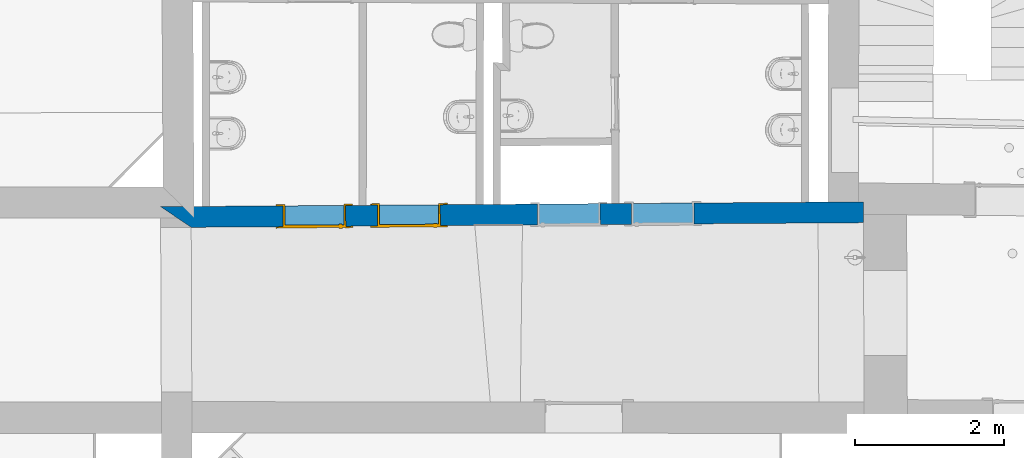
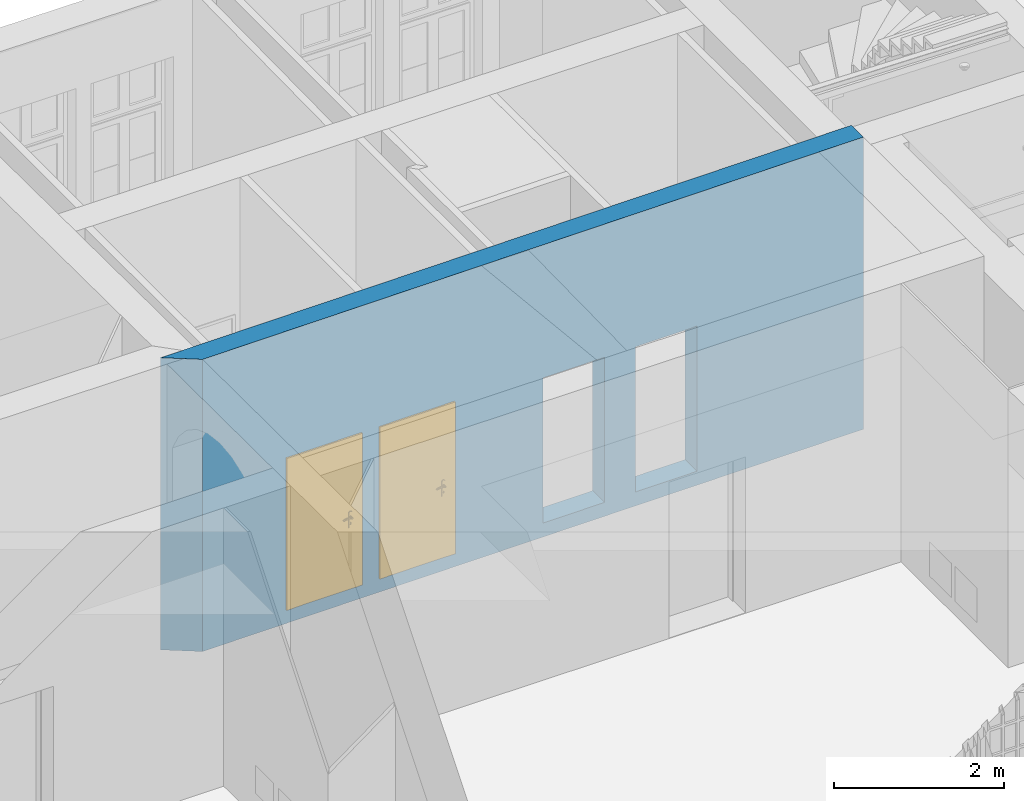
# One storey, part 29 of 90: 2 doors, 1 wall, 4 openings.
"""IFC2X3 building model written with IfcOpenShell, lengths in metres."""

import ifcopenshell
import ifcopenshell.guid

model = None  # the IFC model being written
_history = None  # IfcOwnerHistory: only IFC2X3 demands one
_inside = {}  # id of a spatial element -> (the spatial element, [elements in it])
_under = {}  # id of a project, library or spatial element -> (it, [spatial elements below it])
_declared = {}  # id of a project -> (the project, [libraries it declares])
_typed = {}  # id of a type object -> (the type object, [elements of that type])
_made_of = {}  # id of a material, layer set ... -> (it, [elements and type objects made of it])


def new_model(schema):
    """Start an empty IFC model of exactly this schema.

    Asked for "IFC4X3", IfcOpenShell would pick the latest addendum, in which some entities
    have other attributes; the version numbers below select the first issue.
    IFC2X3 requires an IfcOwnerHistory on every rooted entity: one is made here for all.
    """
    global model, _history
    if schema == "IFC4X3":
        model = ifcopenshell.file(schema_version=(4, 3, 0, 0))
    else:
        model = ifcopenshell.file(schema=schema)
    _inside.clear()
    _under.clear()
    _declared.clear()
    _typed.clear()
    _made_of.clear()
    _history = None
    if model.schema == "IFC2X3":
        org = make("IfcOrganization", Name="unknown")
        user = make(
            "IfcPersonAndOrganization",
            ThePerson=make("IfcPerson", FamilyName="unknown"),
            TheOrganization=org,
        )
        app = make(
            "IfcApplication",
            ApplicationDeveloper=org,
            Version="unknown",
            ApplicationFullName="unknown",
            ApplicationIdentifier="unknown",
        )
        _history = make(
            "IfcOwnerHistory",
            OwningUser=user,
            OwningApplication=app,
            ChangeAction="ADDED",
            CreationDate=0,
        )
    return model


def make(cls, **values):
    """One entity of the class cls with the attributes given. An attribute that is None is left unset."""
    return model.create_entity(
        cls, **{name: value for name, value in values.items() if value is not None}
    )


def entity(cls, *values):
    """Any entity or typed value of the class cls, its attributes in the order of the schema. None: left unset."""
    e = model.create_entity(cls)
    for i, value in enumerate(values):
        if value is not None:
            e[i] = value
    return e


def rooted(cls, **values):
    """An entity with a GlobalId (a new one), such as an element, a storey or a relation."""
    return make(cls, GlobalId=ifcopenshell.guid.new(), OwnerHistory=_history, **values)


def si_unit(unit_type, name, prefix=None):
    """IfcSIUnit, for example si_unit("LENGTHUNIT", "METRE", prefix="MILLI")."""
    return make("IfcSIUnit", UnitType=unit_type, Prefix=prefix, Name=name)


def converted_unit(unit_type, name, factor, base, dimensions=None, offset=None):
    """IfcConversionBasedUnit, such as the inch: factor (a typed value) times the base unit."""
    return make(
        "IfcConversionBasedUnit"
        if offset is None
        else "IfcConversionBasedUnitWithOffset",
        ConversionOffset=offset,
        Dimensions=None
        if dimensions is None
        else entity("IfcDimensionalExponents", *dimensions),
        UnitType=unit_type,
        Name=name,
        ConversionFactor=make(
            "IfcMeasureWithUnit", ValueComponent=factor, UnitComponent=base
        ),
    )


def derived_unit(unit_type, elements):
    """IfcDerivedUnit: a product of units, each with its exponent."""
    return make(
        "IfcDerivedUnit",
        Elements=[
            make("IfcDerivedUnitElement", Unit=unit, Exponent=power)
            for unit, power in elements
        ],
        UnitType=unit_type,
    )


def money_unit(currency):
    """IfcMonetaryUnit."""
    return make("IfcMonetaryUnit", Currency=currency)


def assignment(units):
    """IfcUnitAssignment: the units of a project."""
    return None if units is None else make("IfcUnitAssignment", Units=units)


def point(xyz):
    """IfcCartesianPoint."""
    return None if xyz is None else make("IfcCartesianPoint", Coordinates=xyz)


def direction(xyz):
    """IfcDirection."""
    return None if xyz is None else make("IfcDirection", DirectionRatios=xyz)


def frame(location, z_axis=None, x_axis=None):
    """IfcAxis2Placement3D, a coordinate frame: its origin and axes. An axis left out is left unset."""
    return make(
        "IfcAxis2Placement3D",
        Location=point(location),
        Axis=direction(z_axis),
        RefDirection=direction(x_axis),
    )


def frame_2d(location, x_axis=None):
    """IfcAxis2Placement2D, a coordinate frame in the plane: its origin and x axis."""
    return make(
        "IfcAxis2Placement2D", Location=point(location), RefDirection=direction(x_axis)
    )


def origin_with_axes():
    """The frame at (0, 0, 0) with the z axis (0, 0, 1) and the x axis (1, 0, 0) written out."""
    return frame((0.0, 0.0, 0.0), z_axis=(0.0, 0.0, 1.0), x_axis=(1.0, 0.0, 0.0))


def origin_2d_with_axis():
    """The frame at (0, 0) in the plane with the x axis (1, 0) written out."""
    return frame_2d((0.0, 0.0), x_axis=(1.0, 0.0))


def place(relative_to, where):
    """IfcLocalPlacement: puts the frame where relative to a parent placement (None: the world)."""
    return make(
        "IfcLocalPlacement", PlacementRelTo=relative_to, RelativePlacement=where
    )


def context(
    kind, dimensions, precision=None, world=None, true_north=None, identifier=None
):
    """IfcGeometricRepresentationContext, for example the 3D "Model" context."""
    return make(
        "IfcGeometricRepresentationContext",
        ContextIdentifier=identifier,
        ContextType=kind,
        CoordinateSpaceDimension=dimensions,
        Precision=precision,
        WorldCoordinateSystem=world,
        TrueNorth=true_north,
    )


def subcontext(parent, identifier, kind, view, scale=None):
    """IfcGeometricRepresentationSubContext, for example "Body" below "Model"."""
    return make(
        "IfcGeometricRepresentationSubContext",
        ContextIdentifier=identifier,
        ContextType=kind,
        ParentContext=parent,
        TargetScale=scale,
        TargetView=view,
    )


def project(units=None, contexts=None):
    """IfcProject with its units and contexts."""
    return rooted(
        "IfcProject",
        Name="project",
        RepresentationContexts=contexts,
        UnitsInContext=assignment(units),
    )


def spatial(cls, under=None, at=None, **own):
    """A site, building, storey or space (cls), placed at a placement, below another one or the project."""
    s = rooted(cls, ObjectPlacement=at, **own)
    if under is not None:
        _under.setdefault(under.id(), (under, []))[1].append(s)
    return s


def polyline(points):
    """IfcPolyline through the points."""
    return make("IfcPolyline", Points=[point(p) for p in points])


def profile(cls, at=None, kind="AREA", **sizes):
    """A parametric profile (cls). Its sizes go by their IFC names, for example OverallWidth=200.0."""
    return make(cls, ProfileType=kind, Position=at, **sizes)


def rectangle(**sizes):
    """IfcRectangleProfileDef."""
    return profile("IfcRectangleProfileDef", **sizes)


def outline(outer, holes=None, kind="AREA"):
    """IfcArbitraryClosedProfileDef: a profile drawn as a closed curve; with holes, ...WithVoids."""
    if holes is None:
        return make("IfcArbitraryClosedProfileDef", ProfileType=kind, OuterCurve=outer)
    return make(
        "IfcArbitraryProfileDefWithVoids",
        ProfileType=kind,
        OuterCurve=outer,
        InnerCurves=holes,
    )


def extrude(swept, where, along, depth):
    """IfcExtrudedAreaSolid: the profile swept, set in the frame where, extruded along a direction by depth."""
    return make(
        "IfcExtrudedAreaSolid",
        SweptArea=swept,
        Position=where,
        ExtrudedDirection=direction(along),
        Depth=depth,
    )


def faces_of(points, faces, orient=None, outer=None):
    """IfcFace entities. A face is a list of loops; a loop is a list of indices into points, from 0.

    orient and outer hold one flag for each loop. By default every Orientation is true, the
    first loop of a face is its IfcFaceOuterBound and the others are IfcFaceBound.
    """
    made = []
    for i, loops in enumerate(faces):
        bounds = []
        for j, loop in enumerate(loops):
            is_outer = j == 0 if outer is None else outer[i][j]
            bounds.append(
                make(
                    "IfcFaceOuterBound" if is_outer else "IfcFaceBound",
                    Bound=make("IfcPolyLoop", Polygon=[points[k] for k in loop]),
                    Orientation=True if orient is None else orient[i][j],
                )
            )
        made.append(make("IfcFace", Bounds=bounds))
    return made


def faceted_brep(points, faces, orient=None, outer=None, voids=None):
    """IfcFacetedBrep: a solid bounded by flat faces; with voids (closed shells), ...WithVoids."""
    shared = [point(p) for p in points]
    hull = make("IfcClosedShell", CfsFaces=faces_of(shared, faces, orient, outer))
    if voids is None:
        return make("IfcFacetedBrep", Outer=hull)
    return make(
        "IfcFacetedBrepWithVoids",
        Outer=hull,
        Voids=[
            make(cls, CfsFaces=faces_of(shared, fs, o, b)) for cls, fs, o, b in voids
        ],
    )


def shape(context_of_items, identifier, shape_type, items):
    """IfcShapeRepresentation: the items that make up one representation, for example the "Body"."""
    return make(
        "IfcShapeRepresentation",
        ContextOfItems=context_of_items,
        RepresentationIdentifier=identifier,
        RepresentationType=shape_type,
        Items=items,
    )


def source(mapping_origin, context_of_items, identifier, shape_type, items):
    """IfcRepresentationMap: a shape defined once, which mapped items show again and again."""
    return make(
        "IfcRepresentationMap",
        MappingOrigin=mapping_origin,
        MappedRepresentation=shape(context_of_items, identifier, shape_type, items),
    )


def transform(
    local_origin,
    x_axis=None,
    y_axis=None,
    z_axis=None,
    scale=None,
    scale2=None,
    scale3=None,
    uniform=True,
):
    """IfcCartesianTransformationOperator3D, or its non-uniform kind. x_axis, y_axis, z_axis: its Axis1, 2, 3."""
    if uniform:
        return make(
            "IfcCartesianTransformationOperator3D",
            Axis1=direction(x_axis),
            Axis2=direction(y_axis),
            LocalOrigin=point(local_origin),
            Scale=scale,
            Axis3=direction(z_axis),
        )
    return make(
        "IfcCartesianTransformationOperator3DnonUniform",
        Axis1=direction(x_axis),
        Axis2=direction(y_axis),
        LocalOrigin=point(local_origin),
        Scale=scale,
        Axis3=direction(z_axis),
        Scale2=scale2,
        Scale3=scale3,
    )


def mapped(mapping_source, mapping_target):
    """IfcMappedItem: shows the shape of a source again, moved by a transform."""
    return make(
        "IfcMappedItem", MappingSource=mapping_source, MappingTarget=mapping_target
    )


def material(Name=None, Category=None):
    """IfcMaterial."""
    return make("IfcMaterial", Name=Name, Category=Category)


def layer(
    of_material, thickness, ventilated=None, Name=None, Category=None, Priority=None
):
    """IfcMaterialLayer: one layer of a wall or slab, of a material (None: an air gap)."""
    return make(
        "IfcMaterialLayer",
        Material=of_material,
        LayerThickness=thickness,
        IsVentilated=ventilated,
        Name=Name,
        Category=Category,
        Priority=Priority,
    )


def layer_set(layers, Name=None):
    """IfcMaterialLayerSet."""
    return make("IfcMaterialLayerSet", MaterialLayers=layers, LayerSetName=Name)


def layer_usage(for_layer_set, set_direction, sense, offset, extent=None):
    """IfcMaterialLayerSetUsage: how a layer set lies in its element."""
    return make(
        "IfcMaterialLayerSetUsage",
        ForLayerSet=for_layer_set,
        LayerSetDirection=set_direction,
        DirectionSense=sense,
        OffsetFromReferenceLine=offset,
        ReferenceExtent=extent,
    )


def made_of(thing, what):
    """Note that an element or type object is made of a material, layer set ...; save() writes the relation."""
    if what is not None:
        _made_of.setdefault(what.id(), (what, []))[1].append(thing)
    return thing


def type_object(cls, material=None, **own):
    """A type object (cls), such as IfcWallType, which elements share."""
    return made_of(rooted(cls, **own), material)


def element(
    cls,
    number,
    at=None,
    inside=None,
    cuts=None,
    type_object=None,
    material=None,
    context=None,
    identifier="Body",
    shape_type=None,
    held_by="IfcProductDefinitionShape",
    body=None,
    shapes=None,
    **own,
):
    """One element of the class cls, such as IfcWall. Its Tag is "e" and its number.

    at: its placement. inside: the storey or other place that contains it. cuts: it is an
    opening in that element (IfcRelVoidsElement). A single representation is given by context,
    identifier, shape_type and body (its items); several are given by shapes. held_by: the class
    of the entity that holds the representations. save() writes the other relations.
    """
    e = rooted(cls, Tag="e%d" % number, ObjectPlacement=at, **own)
    if body is not None:
        shapes = [shape(context, identifier, shape_type, body)]
    if shapes is not None:
        e.Representation = make(held_by, Representations=shapes)
    if inside is not None:
        _inside.setdefault(inside.id(), (inside, []))[1].append(e)
    if cuts is not None:
        rooted(
            "IfcRelVoidsElement", RelatingBuildingElement=cuts, RelatedOpeningElement=e
        )
    if type_object is not None:
        _typed.setdefault(type_object.id(), (type_object, []))[1].append(e)
    return made_of(e, material)


def fill(opening, filler):
    """IfcRelFillsElement: the door or window that sits in an opening."""
    return rooted(
        "IfcRelFillsElement",
        RelatingOpeningElement=opening,
        RelatedBuildingElement=filler,
    )


def aggregate(whole, parts):
    """IfcRelAggregates: a whole, such as a stair, and the parts it consists of."""
    return rooted("IfcRelAggregates", RelatingObject=whole, RelatedObjects=parts)


def save(model, path):
    """Write the relations noted so far, then the file.

    IfcRelAggregates (storeys below a building ...), IfcRelContainedInSpatialStructure (elements
    in a storey), IfcRelDefinesByType, IfcRelAssociatesMaterial and IfcRelDeclares: one each for
    every whole, place, type object, material and project.
    """
    for whole, parts in _under.values():
        aggregate(whole, parts)
    for where, things in _inside.values():
        rooted(
            "IfcRelContainedInSpatialStructure",
            RelatedElements=things,
            RelatingStructure=where,
        )
    for kind, things in _typed.values():
        rooted("IfcRelDefinesByType", RelatedObjects=things, RelatingType=kind)
    for what, things in _made_of.values():
        rooted("IfcRelAssociatesMaterial", RelatedObjects=things, RelatingMaterial=what)
    for by, libraries in _declared.values():
        rooted("IfcRelDeclares", RelatingContext=by, RelatedDefinitions=libraries)
    model.write(path)


model = new_model("IFC2X3")

# Units and contexts
model_context = context("Model", 3, precision=1e-05, world=origin_with_axes(), true_north=direction((0.0, 1.0)))
body_context = subcontext(model_context, "Body", "Model", "MODEL_VIEW")
ifc_project = project(units=[si_unit("LENGTHUNIT", "METRE"), si_unit("AREAUNIT", "SQUARE_METRE"), si_unit("VOLUMEUNIT", "CUBIC_METRE"), converted_unit("PLANEANGLEUNIT", "DEGREE", entity("IfcPlaneAngleMeasure", 0.0174532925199), si_unit("PLANEANGLEUNIT", "RADIAN"), dimensions=[0, 0, 0, 0, 0, 0, 0]), money_unit("EUR"), converted_unit("TIMEUNIT", "Year", entity("IfcTimeMeasure", 31556926.0), si_unit("TIMEUNIT", "SECOND"), dimensions=[0, 0, 1, 0, 0, 0, 0]), si_unit("MASSUNIT", "GRAM", prefix="KILO"), si_unit("THERMODYNAMICTEMPERATUREUNIT", "DEGREE_CELSIUS"), si_unit("LUMINOUSINTENSITYUNIT", "LUMEN"), si_unit("ENERGYUNIT", "JOULE", prefix="MEGA"), derived_unit("THERMALCONDUCTANCEUNIT", [(si_unit("POWERUNIT", "WATT"), 1), (si_unit("LENGTHUNIT", "METRE"), -1), (si_unit("THERMODYNAMICTEMPERATUREUNIT", "KELVIN"), -1)]), derived_unit("SPECIFICHEATCAPACITYUNIT", [(si_unit("ENERGYUNIT", "JOULE"), 1), (si_unit("MASSUNIT", "GRAM", prefix="KILO"), -1), (si_unit("THERMODYNAMICTEMPERATUREUNIT", "KELVIN"), -1)]), derived_unit("MASSDENSITYUNIT", [(si_unit("MASSUNIT", "GRAM", prefix="KILO"), 1), (si_unit("VOLUMEUNIT", "CUBIC_METRE"), -1)])], contexts=[model_context])

# Site, building, storey
site_placement = place(None, origin_with_axes())
site = spatial("IfcSite", under=ifc_project, at=site_placement, Name="Gelände", CompositionType="ELEMENT")
building_placement = place(site_placement, origin_with_axes())
building = spatial("IfcBuilding", under=site, at=building_placement, Name="Gebäude", CompositionType="ELEMENT")
storey_placement = place(building_placement, frame((0.0, 0.0, 3.7), z_axis=(0.0, 0.0, 1.0), x_axis=(1.0, 0.0, 0.0)))
storey = spatial("IfcBuildingStorey", under=building, at=storey_placement, Name="1.OBERGESCHOSS", CompositionType="ELEMENT", Elevation=3.7)

# Wall, openings, doors
ifc_material = material(Name="05_ALLGEMEIN - TRAGENDE BAUTEILE")
ifc_layer = layer(ifc_material, 0.28, ventilated="UNKNOWN")
ifc_layer_set = layer_set([ifc_layer], Name="05_ALLGEMEIN - TRAGENDE BAUTEILE 0.28")
ifc_layer_usage = layer_usage(ifc_layer_set, "AXIS2", "NEGATIVE", 0.28)
wall_type = type_object("IfcWallType", Name="05_ALLGEMEIN - TRAGENDE BAUTEILE 280", PredefinedType="ELEMENTEDWALL")
wall_placement = place(storey_placement, frame((12.5279882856, 19.1535270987, -0.1), z_axis=(0.0, 0.0, 1.0), x_axis=(0.9999762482, 0.00689224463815, 0.0)))
wall = element("IfcWallStandardCase", 1, at=wall_placement, inside=storey, type_object=wall_type, material=ifc_layer_usage, Name="Wand-038", ObjectType="ELEMENTEDWALL", context=body_context, shape_type="SweptSolid", body=[
    extrude(outline(polyline([(0.410001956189, 0.0), (9.43148530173, 0.0), (9.432443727, 0.28), (0.000864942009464, 0.28), (0.410001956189, 0.0)])), origin_with_axes(), (0.0, 0.0, 1.0), 4.2),
])
opening_1_placement = place(wall_placement, frame((2.06437671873, 0.0, 0.2), z_axis=(0.0, 0.0, 1.0), x_axis=(1.0, 0.0, 0.0)))
opening_1 = element("IfcOpeningElement", 2, at=opening_1_placement, cuts=wall, Name="Tür-022", context=body_context, shape_type="SweptSolid", body=[
    extrude(rectangle(XDim=0.840428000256, YDim=2.086604, at=origin_2d_with_axis()), frame((0.0, 0.28, 1.043302), z_axis=(0.0, -1.0, 0.0), x_axis=(-1.0, 0.0, 0.0)), (0.0, 0.0, 1.0), 0.84),
])
opening_2_placement = place(wall_placement, frame((3.33315273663, 0.0, 0.2), z_axis=(0.0, 0.0, 1.0), x_axis=(1.0, 0.0, 0.0)))
opening_2 = element("IfcOpeningElement", 3, at=opening_2_placement, cuts=wall, Name="Tür-023", context=body_context, shape_type="SweptSolid", body=[
    extrude(rectangle(XDim=0.840428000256, YDim=2.086604, at=origin_2d_with_axis()), frame((0.0, 0.28, 1.043302), z_axis=(0.0, -1.0, 0.0), x_axis=(-1.0, 0.0, 0.0)), (0.0, 0.0, 1.0), 0.84),
])
opening_3_placement = place(wall_placement, frame((5.47973669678, 0.0, 0.2), z_axis=(0.0, 0.0, 1.0), x_axis=(1.0, 0.0, 0.0)))
element("IfcOpeningElement", 4, at=opening_3_placement, cuts=wall, Name="Tür-024", context=body_context, shape_type="SweptSolid", body=[
    extrude(rectangle(XDim=0.840428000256, YDim=2.086604, at=origin_2d_with_axis()), frame((0.0, 0.28, 1.043302), z_axis=(0.0, 1.0, 0.0), x_axis=(1.0, 0.0, 0.0)), (0.0, 0.0, -1.0), 0.84),
])
opening_4_placement = place(wall_placement, frame((6.74065422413, 0.0, 0.2), z_axis=(0.0, 0.0, 1.0), x_axis=(1.0, 0.0, 0.0)))
element("IfcOpeningElement", 5, at=opening_4_placement, cuts=wall, Name="Tür-025", context=body_context, shape_type="SweptSolid", body=[
    extrude(rectangle(XDim=0.840428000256, YDim=2.086604, at=origin_2d_with_axis()), frame((0.0, 0.28, 1.043302), z_axis=(0.0, 1.0, 0.0), x_axis=(1.0, 0.0, 0.0)), (0.0, 0.0, -1.0), 0.84),
])
door_style = type_object("IfcDoorStyle", Name="Blockrahmentür 1-Fl 25", ConstructionType="NOTDEFINED", OperationType="SINGLE_SWING_RIGHT", ParameterTakesPrecedence=False, Sizeable=False)
shared_shape = source(origin_with_axes(), body_context, "Body", "Brep", [
    faceted_brep([(0.420214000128, -0.3, 0.0), (0.420214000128, -0.02, 0.0), (0.420214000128, -0.02, 2.086604), (0.420214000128, -0.3, 2.086604), (0.395214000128, -0.3, 0.0), (0.395214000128, -0.02, 0.0), (0.395214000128, -0.02, 2.061604), (0.1151, -0.02, 2.061604), (0.0001, -0.02, 2.061604), (-0.395214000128, -0.02, 2.061604), (-0.395214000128, -0.02, 0.0), (-0.420214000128, -0.02, 0.0), (-0.420214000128, -0.02, 2.086604), (-0.420214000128, -0.3, 2.086604), (-0.420214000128, -0.3, 0.0), (-0.395214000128, -0.3, 0.0), (-0.395214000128, -0.3, 2.061604), (0.0001, -0.3, 2.061604), (0.1151, -0.3, 2.061604), (0.395214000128, -0.3, 2.061604)], [[[0, 1, 2, 3]], [[4, 5, 1, 0]], [[1, 5, 6, 7, 8, 9, 10, 11, 12, 2]], [[3, 2, 12, 13]], [[0, 3, 13, 14, 15, 16, 17, 18, 19, 4]], [[19, 6, 5, 4]], [[18, 7, 6, 19]], [[17, 8, 7, 18]], [[16, 9, 8, 17]], [[15, 10, 9, 16]], [[14, 11, 10, 15]], [[13, 12, 11, 14]]]),
    faceted_brep([(0.420214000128, -0.02, 0.0), (0.420214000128, 0.02, 0.0), (0.420214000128, 0.02, 2.086604), (0.420214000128, -0.02, 2.086604), (0.410214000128, -0.02, 0.0), (0.410214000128, 0.02, 0.0), (0.410214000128, 0.02, 2.076604), (0.1001, 0.02, 2.076604), (0.0151, 0.02, 2.076604), (-0.410214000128, 0.02, 2.076604), (-0.410214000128, 0.02, 0.0), (-0.420214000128, 0.02, 0.0), (-0.420214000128, 0.02, 2.086604), (-0.420214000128, -0.02, 2.086604), (-0.420214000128, -0.02, 0.0), (-0.410214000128, -0.02, 0.0), (-0.410214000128, -0.02, 2.076604), (0.0151, -0.02, 2.076604), (0.1001, -0.02, 2.076604), (0.410214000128, -0.02, 2.076604)], [[[0, 1, 2, 3]], [[4, 5, 1, 0]], [[1, 5, 6, 7, 8, 9, 10, 11, 12, 2]], [[3, 2, 12, 13]], [[0, 3, 13, 14, 15, 16, 17, 18, 19, 4]], [[19, 6, 5, 4]], [[18, 7, 6, 19]], [[17, 8, 7, 18]], [[16, 9, 8, 17]], [[15, 10, 9, 16]], [[14, 11, 10, 15]], [[13, 12, 11, 14]]]),
    faceted_brep([(0.515214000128, -0.3, 0.0), (0.515214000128, -0.28, 0.0), (0.515214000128, -0.28, 2.181604), (0.515214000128, -0.3, 2.181604), (0.420214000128, -0.3, 0.0), (0.420214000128, -0.28, 0.0), (0.420214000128, -0.28, 2.086604), (-0.420214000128, -0.28, 2.086604), (-0.420214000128, -0.28, 0.0), (-0.515214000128, -0.28, 0.0), (-0.515214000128, -0.28, 2.181604), (-0.515214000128, -0.3, 2.181604), (-0.515214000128, -0.3, 0.0), (-0.420214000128, -0.3, 0.0), (-0.420214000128, -0.3, 2.086604), (0.420214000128, -0.3, 2.086604)], [[[0, 1, 2, 3]], [[4, 5, 1, 0]], [[1, 5, 6, 7, 8, 9, 10, 2]], [[3, 2, 10, 11]], [[0, 3, 11, 12, 13, 14, 15, 4]], [[15, 6, 5, 4]], [[14, 7, 6, 15]], [[13, 8, 7, 14]], [[12, 9, 8, 13]], [[11, 10, 9, 12]]]),
    faceted_brep([(0.515214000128, 0.0, 0.0), (0.515214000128, 0.02, 0.0), (0.515214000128, 0.02, 2.181604), (0.515214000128, 0.0, 2.181604), (0.420214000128, 0.0, 0.0), (0.420214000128, 0.02, 0.0), (0.420214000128, 0.02, 2.086604), (-0.420214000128, 0.02, 2.086604), (-0.420214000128, 0.02, 0.0), (-0.515214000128, 0.02, 0.0), (-0.515214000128, 0.02, 2.181604), (-0.515214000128, 0.0, 2.181604), (-0.515214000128, 0.0, 0.0), (-0.420214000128, 0.0, 0.0), (-0.420214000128, 0.0, 2.086604), (0.420214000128, 0.0, 2.086604)], [[[0, 1, 2, 3]], [[4, 5, 1, 0]], [[1, 5, 6, 7, 8, 9, 10, 2]], [[3, 2, 10, 11]], [[0, 3, 11, 12, 13, 14, 15, 4]], [[15, 6, 5, 4]], [[14, 7, 6, 15]], [[13, 8, 7, 14]], [[12, 9, 8, 13]], [[11, 10, 9, 12]]]),
    faceted_brep([(0.410214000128, 0.017, 0.0), (-0.410214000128, 0.017, 0.0), (-0.410214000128, 0.017, 2.076604), (0.410214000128, 0.017, 2.076604), (0.410214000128, -0.02, 0.0), (-0.410214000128, -0.02, 0.0), (-0.410214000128, -0.02, 2.076604), (0.410214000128, -0.02, 2.076604)], [[[0, 1, 2, 3]], [[1, 0, 4, 5]], [[2, 1, 5, 6]], [[3, 2, 6, 7]], [[0, 3, 7, 4]], [[5, 4, 7, 6]]]),
    faceted_brep([(-0.354916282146, -0.06, 1.05647213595), (-0.350214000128, -0.06, 1.058), (-0.350214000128, -0.04, 1.058), (-0.354916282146, -0.04, 1.05647213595), (-0.357822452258, -0.06, 1.05247213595), (-0.357822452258, -0.06, 1.04752786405), (-0.354916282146, -0.06, 1.04352786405), (-0.350214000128, -0.06, 1.042), (-0.34551171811, -0.06, 1.04352786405), (-0.342605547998, -0.06, 1.04752786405), (-0.342605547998, -0.06, 1.05247213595), (-0.34551171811, -0.06, 1.05647213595), (-0.34551171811, -0.04, 1.05647213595), (-0.350214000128, -0.038, 1.06), (-0.356091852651, -0.038, 1.05809016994), (-0.357822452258, -0.04, 1.05247213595), (-0.357822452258, -0.04, 1.04752786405), (-0.354916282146, -0.04, 1.04352786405), (-0.350214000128, -0.04, 1.042), (-0.34551171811, -0.04, 1.04352786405), (-0.342605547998, -0.04, 1.04752786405), (-0.342605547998, -0.04, 1.05247213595), (-0.344336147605, -0.038, 1.05809016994), (-0.350214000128, -0.03, 1.06), (-0.356091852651, -0.03, 1.05809016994), (-0.359724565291, -0.038, 1.05309016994), (-0.359724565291, -0.038, 1.04690983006), (-0.356091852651, -0.038, 1.04190983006), (-0.350214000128, -0.038, 1.04), (-0.344336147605, -0.038, 1.04190983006), (-0.340703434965, -0.038, 1.04690983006), (-0.340703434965, -0.038, 1.05309016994), (-0.344336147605, -0.03, 1.05809016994), (-0.340703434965, -0.03, 1.05309016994), (-0.340703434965, -0.03, 1.04690983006), (-0.344336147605, -0.03, 1.04190983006), (-0.350214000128, -0.03, 1.04), (-0.356091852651, -0.03, 1.04190983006), (-0.359724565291, -0.03, 1.04690983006), (-0.359724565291, -0.03, 1.05309016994)], [[[0, 1, 2, 3]], [[1, 0, 4, 5, 6, 7, 8, 9, 10, 11]], [[1, 11, 12, 2]], [[3, 2, 13, 14]], [[4, 0, 3, 15]], [[5, 4, 15, 16]], [[6, 5, 16, 17]], [[7, 6, 17, 18]], [[8, 7, 18, 19]], [[9, 8, 19, 20]], [[10, 9, 20, 21]], [[11, 10, 21, 12]], [[2, 12, 22, 13]], [[14, 13, 23, 24]], [[15, 3, 14, 25]], [[16, 15, 25, 26]], [[17, 16, 26, 27]], [[18, 17, 27, 28]], [[19, 18, 28, 29]], [[20, 19, 29, 30]], [[21, 20, 30, 31]], [[12, 21, 31, 22]], [[13, 22, 32, 23]], [[23, 32, 33, 34, 35, 36, 37, 38, 39, 24]], [[25, 14, 24, 39]], [[26, 25, 39, 38]], [[27, 26, 38, 37]], [[28, 27, 37, 36]], [[29, 28, 36, 35]], [[30, 29, 35, 34]], [[31, 30, 34, 33]], [[22, 31, 33, 32]]]),
    faceted_brep([(-0.338025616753, -0.03, 1.11759695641), (-0.345770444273, -0.03, 1.12195567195), (-0.354657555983, -0.03, 1.12195567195), (-0.362402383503, -0.03, 1.11759695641), (-0.367014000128, -0.03, 1.11), (-0.372714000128, -0.03, 1.11), (-0.372714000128, -0.03, 0.89), (-0.367014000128, -0.03, 0.89), (-0.362402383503, -0.03, 0.882403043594), (-0.354657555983, -0.03, 0.878044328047), (-0.345770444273, -0.03, 0.878044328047), (-0.338025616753, -0.03, 0.882403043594), (-0.333414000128, -0.03, 0.89), (-0.327714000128, -0.03, 0.89), (-0.327714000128, -0.03, 1.11), (-0.333414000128, -0.03, 1.11), (-0.350214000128, -0.03, 0.967425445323), (-0.344838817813, -0.03, 0.965143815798), (-0.342746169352, -0.03, 0.959692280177), (-0.345214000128, -0.03, 0.9544), (-0.345214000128, -0.03, 0.9375), (-0.346678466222, -0.03, 0.933964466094), (-0.350214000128, -0.03, 0.9325), (-0.353749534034, -0.03, 0.933964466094), (-0.355214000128, -0.03, 0.9375), (-0.355214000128, -0.03, 0.9544), (-0.357681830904, -0.03, 0.959692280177), (-0.355589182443, -0.03, 0.965143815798), (-0.338025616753, -0.02, 1.11759695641), (-0.345770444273, -0.02, 1.12195567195), (-0.354657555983, -0.02, 1.12195567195), (-0.362402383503, -0.02, 1.11759695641), (-0.367014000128, -0.02, 1.11), (-0.372714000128, -0.02, 1.11), (-0.372714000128, -0.02, 0.89), (-0.367014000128, -0.02, 0.89), (-0.362402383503, -0.02, 0.882403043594), (-0.354657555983, -0.02, 0.878044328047), (-0.345770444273, -0.02, 0.878044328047), (-0.338025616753, -0.02, 0.882403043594), (-0.333414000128, -0.02, 0.89), (-0.327714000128, -0.02, 0.89), (-0.327714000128, -0.02, 1.11), (-0.333414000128, -0.02, 1.11), (-0.350214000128, -0.02, 0.967425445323), (-0.344838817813, -0.02, 0.965143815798), (-0.342746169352, -0.02, 0.959692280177), (-0.345214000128, -0.02, 0.9544), (-0.345214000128, -0.02, 0.9375), (-0.346678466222, -0.02, 0.933964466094), (-0.350214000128, -0.02, 0.9325), (-0.353749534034, -0.02, 0.933964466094), (-0.355214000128, -0.02, 0.9375), (-0.355214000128, -0.02, 0.9544), (-0.357681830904, -0.02, 0.959692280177), (-0.355589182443, -0.02, 0.965143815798)], [[[0, 1, 2, 3, 4, 5, 6, 7, 8, 9, 10, 11, 12, 13, 14, 15], [16, 17, 18, 19, 20, 21, 22, 23, 24, 25, 26, 27]], [[1, 0, 28, 29]], [[2, 1, 29, 30]], [[3, 2, 30, 31]], [[4, 3, 31, 32]], [[5, 4, 32, 33]], [[6, 5, 33, 34]], [[7, 6, 34, 35]], [[8, 7, 35, 36]], [[9, 8, 36, 37]], [[10, 9, 37, 38]], [[11, 10, 38, 39]], [[12, 11, 39, 40]], [[13, 12, 40, 41]], [[14, 13, 41, 42]], [[15, 14, 42, 43]], [[0, 15, 43, 28]], [[17, 16, 44, 45]], [[18, 17, 45, 46]], [[19, 18, 46, 47]], [[19, 47, 48, 20]], [[20, 48, 49, 21]], [[21, 49, 50, 22]], [[22, 50, 51, 23]], [[23, 51, 52, 24]], [[53, 25, 24, 52]], [[26, 25, 53, 54]], [[27, 26, 54, 55]], [[16, 27, 55, 44]], [[40, 39, 38, 37, 36, 35, 34, 33, 32, 31, 30, 29, 28, 43, 42, 41], [54, 53, 52, 51, 50, 49, 48, 47, 46, 45, 44, 55]]]),
    faceted_brep([(-0.235961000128, -0.06, 1.057158), (-0.235961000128, -0.075, 1.057158), (-0.235959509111, -0.075, 1.05719388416), (-0.235959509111, -0.06, 1.05719388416), (-0.262988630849, -0.06, 1.06432652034), (-0.262988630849, -0.075, 1.06432652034), (-0.290816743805, -0.075, 1.06706086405), (-0.318722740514, -0.075, 1.06529002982), (-0.345982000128, -0.075, 1.05906), (-0.352384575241, -0.075, 1.05976125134), (-0.357886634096, -0.075, 1.05641280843), (-0.360205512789, -0.075, 1.05040385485), (-0.35837916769, -0.075, 1.04422735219), (-0.353165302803, -0.075, 1.04044577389), (-0.346727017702, -0.075, 1.04062800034), (-0.341735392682, -0.075, 1.04469843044), (-0.341756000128, -0.075, 1.044666), (-0.316467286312, -0.075, 1.05019878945), (-0.290624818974, -0.075, 1.05171460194), (-0.26486268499, -0.075, 1.04917624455), (-0.239813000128, -0.075, 1.042646), (-0.234269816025, -0.075, 1.04356849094), (-0.230908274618, -0.075, 1.04807159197), (-0.231599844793, -0.075, 1.05364829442), (-0.231599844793, -0.06, 1.05364829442), (-0.230908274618, -0.06, 1.04807159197), (-0.234269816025, -0.06, 1.04356849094), (-0.239813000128, -0.06, 1.042646), (-0.26486268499, -0.06, 1.04917624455), (-0.290624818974, -0.06, 1.05171460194), (-0.316467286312, -0.06, 1.05019878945), (-0.341756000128, -0.06, 1.044666), (-0.341735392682, -0.06, 1.04469843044), (-0.346727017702, -0.06, 1.04062800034), (-0.353165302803, -0.06, 1.04044577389), (-0.35837916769, -0.06, 1.04422735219), (-0.360205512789, -0.06, 1.05040385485), (-0.357886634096, -0.06, 1.05641280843), (-0.352384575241, -0.06, 1.05976125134), (-0.345982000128, -0.06, 1.05906), (-0.318722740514, -0.06, 1.06529002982), (-0.290816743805, -0.06, 1.06706086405)], [[[0, 1, 2, 3]], [[4, 5, 1, 0]], [[1, 5, 6, 7, 8, 9, 10, 11, 12, 13, 14, 15, 16, 17, 18, 19, 20, 21, 22, 23, 2]], [[3, 2, 23, 24]], [[0, 3, 24, 25, 26, 27, 28, 29, 30, 31, 32, 33, 34, 35, 36, 37, 38, 39, 40, 41, 4]], [[41, 6, 5, 4]], [[40, 7, 6, 41]], [[39, 8, 7, 40]], [[38, 9, 8, 39]], [[37, 10, 9, 38]], [[36, 11, 10, 37]], [[35, 12, 11, 36]], [[34, 13, 12, 35]], [[33, 14, 13, 34]], [[32, 15, 14, 33]], [[31, 16, 15, 32]], [[30, 17, 16, 31]], [[29, 18, 17, 30]], [[28, 19, 18, 29]], [[27, 20, 19, 28]], [[26, 21, 20, 27]], [[25, 22, 21, 26]], [[24, 23, 22, 25]]]),
    faceted_brep([(-0.354916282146, 0.057, 1.05647213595), (-0.354916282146, 0.037, 1.05647213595), (-0.350214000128, 0.037, 1.058), (-0.350214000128, 0.057, 1.058), (-0.357822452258, 0.057, 1.05247213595), (-0.357822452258, 0.037, 1.05247213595), (-0.356091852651, 0.035, 1.05809016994), (-0.350214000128, 0.035, 1.06), (-0.34551171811, 0.037, 1.05647213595), (-0.34551171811, 0.057, 1.05647213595), (-0.342605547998, 0.057, 1.05247213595), (-0.342605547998, 0.057, 1.04752786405), (-0.34551171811, 0.057, 1.04352786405), (-0.350214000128, 0.057, 1.042), (-0.354916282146, 0.057, 1.04352786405), (-0.357822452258, 0.057, 1.04752786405), (-0.357822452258, 0.037, 1.04752786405), (-0.359724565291, 0.035, 1.05309016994), (-0.356091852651, 0.027, 1.05809016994), (-0.350214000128, 0.027, 1.06), (-0.344336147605, 0.035, 1.05809016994), (-0.342605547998, 0.037, 1.05247213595), (-0.342605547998, 0.037, 1.04752786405), (-0.34551171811, 0.037, 1.04352786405), (-0.350214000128, 0.037, 1.042), (-0.354916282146, 0.037, 1.04352786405), (-0.359724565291, 0.035, 1.04690983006), (-0.359724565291, 0.027, 1.05309016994), (-0.359724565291, 0.027, 1.04690983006), (-0.356091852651, 0.027, 1.04190983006), (-0.350214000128, 0.027, 1.04), (-0.344336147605, 0.027, 1.04190983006), (-0.340703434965, 0.027, 1.04690983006), (-0.340703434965, 0.027, 1.05309016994), (-0.344336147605, 0.027, 1.05809016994), (-0.340703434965, 0.035, 1.05309016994), (-0.340703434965, 0.035, 1.04690983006), (-0.344336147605, 0.035, 1.04190983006), (-0.350214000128, 0.035, 1.04), (-0.356091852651, 0.035, 1.04190983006)], [[[0, 1, 2, 3]], [[4, 5, 1, 0]], [[1, 6, 7, 2]], [[3, 2, 8, 9]], [[3, 9, 10, 11, 12, 13, 14, 15, 4, 0]], [[15, 16, 5, 4]], [[5, 17, 6, 1]], [[6, 18, 19, 7]], [[2, 7, 20, 8]], [[9, 8, 21, 10]], [[10, 21, 22, 11]], [[11, 22, 23, 12]], [[12, 23, 24, 13]], [[13, 24, 25, 14]], [[14, 25, 16, 15]], [[16, 26, 17, 5]], [[17, 27, 18, 6]], [[19, 18, 27, 28, 29, 30, 31, 32, 33, 34]], [[7, 19, 34, 20]], [[8, 20, 35, 21]], [[21, 35, 36, 22]], [[22, 36, 37, 23]], [[23, 37, 38, 24]], [[24, 38, 39, 25]], [[25, 39, 26, 16]], [[26, 28, 27, 17]], [[39, 29, 28, 26]], [[38, 30, 29, 39]], [[37, 31, 30, 38]], [[36, 32, 31, 37]], [[35, 33, 32, 36]], [[20, 34, 33, 35]]]),
    faceted_brep([(-0.338025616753, 0.017, 1.11759695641), (-0.345770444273, 0.017, 1.12195567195), (-0.354657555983, 0.017, 1.12195567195), (-0.362402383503, 0.017, 1.11759695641), (-0.367014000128, 0.017, 1.11), (-0.372714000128, 0.017, 1.11), (-0.372714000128, 0.017, 0.89), (-0.367014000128, 0.017, 0.89), (-0.362402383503, 0.017, 0.882403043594), (-0.354657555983, 0.017, 0.878044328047), (-0.345770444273, 0.017, 0.878044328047), (-0.338025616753, 0.017, 0.882403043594), (-0.333414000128, 0.017, 0.89), (-0.327714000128, 0.017, 0.89), (-0.327714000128, 0.017, 1.11), (-0.333414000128, 0.017, 1.11), (-0.350214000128, 0.017, 0.967425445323), (-0.344838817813, 0.017, 0.965143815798), (-0.342746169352, 0.017, 0.959692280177), (-0.345214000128, 0.017, 0.9544), (-0.345214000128, 0.017, 0.9375), (-0.346678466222, 0.017, 0.933964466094), (-0.350214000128, 0.017, 0.9325), (-0.353749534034, 0.017, 0.933964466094), (-0.355214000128, 0.017, 0.9375), (-0.355214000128, 0.017, 0.9544), (-0.357681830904, 0.017, 0.959692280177), (-0.355589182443, 0.017, 0.965143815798), (-0.345770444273, 0.027, 1.12195567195), (-0.338025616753, 0.027, 1.11759695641), (-0.354657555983, 0.027, 1.12195567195), (-0.362402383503, 0.027, 1.11759695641), (-0.367014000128, 0.027, 1.11), (-0.372714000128, 0.027, 1.11), (-0.372714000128, 0.027, 0.89), (-0.367014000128, 0.027, 0.89), (-0.362402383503, 0.027, 0.882403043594), (-0.354657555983, 0.027, 0.878044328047), (-0.345770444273, 0.027, 0.878044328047), (-0.338025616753, 0.027, 0.882403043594), (-0.333414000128, 0.027, 0.89), (-0.327714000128, 0.027, 0.89), (-0.327714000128, 0.027, 1.11), (-0.333414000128, 0.027, 1.11), (-0.350214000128, 0.027, 0.967425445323), (-0.344838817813, 0.027, 0.965143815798), (-0.342746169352, 0.027, 0.959692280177), (-0.345214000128, 0.027, 0.9544), (-0.345214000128, 0.027, 0.9375), (-0.346678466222, 0.027, 0.933964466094), (-0.350214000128, 0.027, 0.9325), (-0.353749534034, 0.027, 0.933964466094), (-0.355214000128, 0.027, 0.9375), (-0.355214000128, 0.027, 0.9544), (-0.357681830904, 0.027, 0.959692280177), (-0.355589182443, 0.027, 0.965143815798)], [[[0, 1, 2, 3, 4, 5, 6, 7, 8, 9, 10, 11, 12, 13, 14, 15], [16, 17, 18, 19, 20, 21, 22, 23, 24, 25, 26, 27]], [[28, 1, 0, 29]], [[30, 2, 1, 28]], [[31, 3, 2, 30]], [[32, 4, 3, 31]], [[33, 5, 4, 32]], [[34, 6, 5, 33]], [[35, 7, 6, 34]], [[36, 8, 7, 35]], [[37, 9, 8, 36]], [[38, 10, 9, 37]], [[39, 11, 10, 38]], [[40, 12, 11, 39]], [[41, 13, 12, 40]], [[42, 14, 13, 41]], [[43, 15, 14, 42]], [[29, 0, 15, 43]], [[17, 16, 44, 45]], [[18, 17, 45, 46]], [[19, 18, 46, 47]], [[19, 47, 48, 20]], [[20, 48, 49, 21]], [[21, 49, 50, 22]], [[22, 50, 51, 23]], [[23, 51, 52, 24]], [[53, 25, 24, 52]], [[26, 25, 53, 54]], [[27, 26, 54, 55]], [[16, 27, 55, 44]], [[40, 39, 38, 37, 36, 35, 34, 33, 32, 31, 30, 28, 29, 43, 42, 41], [54, 53, 52, 51, 50, 49, 48, 47, 46, 45, 44, 55]]]),
    faceted_brep([(-0.235961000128, 0.057, 1.057158), (-0.235959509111, 0.057, 1.05719388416), (-0.235959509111, 0.072, 1.05719388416), (-0.235961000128, 0.072, 1.057158), (-0.262988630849, 0.057, 1.06432652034), (-0.290816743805, 0.057, 1.06706086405), (-0.318722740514, 0.057, 1.06529002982), (-0.345982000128, 0.057, 1.05906), (-0.352384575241, 0.057, 1.05976125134), (-0.357886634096, 0.057, 1.05641280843), (-0.360205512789, 0.057, 1.05040385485), (-0.35837916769, 0.057, 1.04422735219), (-0.353165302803, 0.057, 1.04044577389), (-0.346727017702, 0.057, 1.04062800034), (-0.341735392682, 0.057, 1.04469843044), (-0.341756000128, 0.057, 1.044666), (-0.316467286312, 0.057, 1.05019878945), (-0.290624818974, 0.057, 1.05171460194), (-0.26486268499, 0.057, 1.04917624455), (-0.239813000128, 0.057, 1.042646), (-0.234269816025, 0.057, 1.04356849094), (-0.230908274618, 0.057, 1.04807159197), (-0.231599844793, 0.057, 1.05364829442), (-0.231599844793, 0.072, 1.05364829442), (-0.230908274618, 0.072, 1.04807159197), (-0.234269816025, 0.072, 1.04356849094), (-0.239813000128, 0.072, 1.042646), (-0.26486268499, 0.072, 1.04917624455), (-0.290624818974, 0.072, 1.05171460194), (-0.316467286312, 0.072, 1.05019878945), (-0.341756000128, 0.072, 1.044666), (-0.341735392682, 0.072, 1.04469843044), (-0.346727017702, 0.072, 1.04062800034), (-0.353165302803, 0.072, 1.04044577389), (-0.35837916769, 0.072, 1.04422735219), (-0.360205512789, 0.072, 1.05040385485), (-0.357886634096, 0.072, 1.05641280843), (-0.352384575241, 0.072, 1.05976125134), (-0.345982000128, 0.072, 1.05906), (-0.318722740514, 0.072, 1.06529002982), (-0.290816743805, 0.072, 1.06706086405), (-0.262988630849, 0.072, 1.06432652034)], [[[0, 1, 2, 3]], [[0, 4, 5, 6, 7, 8, 9, 10, 11, 12, 13, 14, 15, 16, 17, 18, 19, 20, 21, 22, 1]], [[1, 22, 23, 2]], [[3, 2, 23, 24, 25, 26, 27, 28, 29, 30, 31, 32, 33, 34, 35, 36, 37, 38, 39, 40, 41]], [[4, 0, 3, 41]], [[5, 4, 41, 40]], [[6, 5, 40, 39]], [[7, 6, 39, 38]], [[8, 7, 38, 37]], [[9, 8, 37, 36]], [[10, 9, 36, 35]], [[11, 10, 35, 34]], [[12, 11, 34, 33]], [[13, 12, 33, 32]], [[14, 13, 32, 31]], [[15, 14, 31, 30]], [[16, 15, 30, 29]], [[17, 16, 29, 28]], [[18, 17, 28, 27]], [[19, 18, 27, 26]], [[20, 19, 26, 25]], [[21, 20, 25, 24]], [[22, 21, 24, 23]]]),
])
door_1_placement = place(opening_1_placement, frame((0.395214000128, 0.0, 0.0), z_axis=(0.0, 0.0, 1.0), x_axis=(-1.0, 0.0, 0.0)))
door_1 = element("IfcDoor", 6, at=door_1_placement, inside=storey, type_object=door_style, Name="Tür-022", ObjectType="NOTDEFINED", OverallHeight=2.0866, OverallWidth=0.840428, context=body_context, shape_type="MappedRepresentation", body=[
    mapped(shared_shape, transform((0.395214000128, 0.0, 0.0))),
])
fill(opening_1, door_1)
door_2_placement = place(opening_2_placement, frame((0.395214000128, 0.0, 0.0), z_axis=(0.0, 0.0, 1.0), x_axis=(-1.0, 0.0, 0.0)))
door_2 = element("IfcDoor", 7, at=door_2_placement, inside=storey, type_object=door_style, Name="Tür-023", ObjectType="NOTDEFINED", OverallHeight=2.0866, OverallWidth=0.840428, context=body_context, shape_type="MappedRepresentation", body=[
    mapped(shared_shape, transform((0.395214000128, 0.0, 0.0))),
])
fill(opening_2, door_2)

save(model, "model.ifc")
